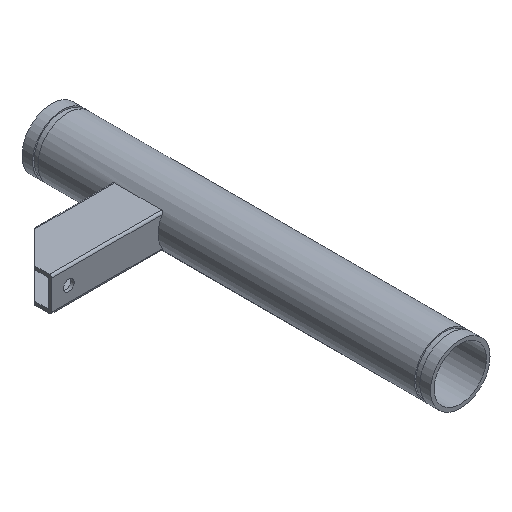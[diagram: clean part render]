
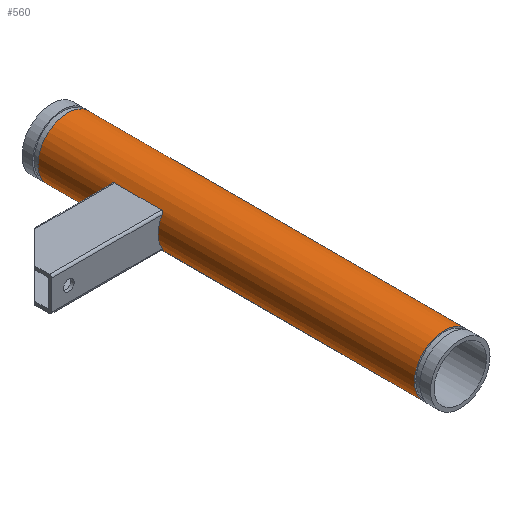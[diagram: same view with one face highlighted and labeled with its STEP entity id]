
A CAD part, isometric view. The second image highlights one B-rep face of the part: STEP entity #560.
In plain terms, the highlighted cylindrical face has radius 44.45 mm (diameter 88.9 mm), a full revolution.
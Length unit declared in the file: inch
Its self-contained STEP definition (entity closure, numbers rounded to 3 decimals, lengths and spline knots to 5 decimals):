
#22=CIRCLE('',#603,1.75);
#23=CIRCLE('',#604,1.75);
#32=CIRCLE('',#621,1.75);
#33=CIRCLE('',#622,1.75);
#34=CIRCLE('',#623,1.75);
#35=CIRCLE('',#624,1.75);
#36=CIRCLE('',#625,1.75);
#37=CIRCLE('',#626,1.75);
#83=FACE_OUTER_BOUND('',#111,.T.);
#111=EDGE_LOOP('',(#407,#408,#409,#410,#411,#412,#413,#414,#415,#416,#417,
#418,#419,#420,#421,#422,#423,#424));
#136=B_SPLINE_CURVE_WITH_KNOTS('',3,(#837,#838,#839,#840,#841,#842,#843,
#844,#845,#846),.UNSPECIFIED.,.F.,.F.,(4,2,2,2,4),(0.,0.12408,
0.24817,0.3957,0.54324),.UNSPECIFIED.);
#137=B_SPLINE_CURVE_WITH_KNOTS('',3,(#863,#864,#865,#866,#867,#868,#869,
#870,#871,#872),.UNSPECIFIED.,.F.,.F.,(4,2,2,2,4),(-0.54324,-0.3957,
-0.24817,-0.12408,0.),.UNSPECIFIED.);
#138=B_SPLINE_CURVE_WITH_KNOTS('',3,(#883,#884,#885,#886,#887,#888,#889,
#890,#891,#892),.UNSPECIFIED.,.F.,.F.,(4,2,2,2,4),(0.53044,0.67798,
0.82551,0.9496,1.07368),.UNSPECIFIED.);
#139=B_SPLINE_CURVE_WITH_KNOTS('',3,(#914,#915,#916,#917,#918,#919,#920,
#921,#922,#923),.UNSPECIFIED.,.F.,.F.,(4,2,2,2,4),(1.07368,1.19777,
1.32185,1.46939,1.61692),.UNSPECIFIED.);
#142=LINE('',#850,#180);
#160=LINE('',#927,#198);
#167=LINE('',#959,#205);
#168=LINE('',#962,#206);
#180=VECTOR('',#671,0.3937);
#198=VECTOR('',#711,0.3937);
#205=VECTOR('',#742,1.75);
#206=VECTOR('',#745,1.75);
#220=VERTEX_POINT('',#834);
#221=VERTEX_POINT('',#836);
#222=VERTEX_POINT('',#849);
#227=VERTEX_POINT('',#860);
#228=VERTEX_POINT('',#862);
#229=VERTEX_POINT('',#876);
#231=VERTEX_POINT('',#882);
#239=VERTEX_POINT('',#911);
#240=VERTEX_POINT('',#913);
#251=VERTEX_POINT('',#954);
#252=VERTEX_POINT('',#955);
#253=VERTEX_POINT('',#958);
#254=VERTEX_POINT('',#961);
#255=VERTEX_POINT('',#963);
#276=EDGE_CURVE('',#220,#221,#136,.F.);
#278=EDGE_CURVE('',#222,#221,#142,.T.);
#284=EDGE_CURVE('',#227,#228,#137,.F.);
#287=EDGE_CURVE('',#229,#228,#22,.T.);
#288=EDGE_CURVE('',#220,#229,#23,.T.);
#290=EDGE_CURVE('',#222,#231,#138,.F.);
#301=EDGE_CURVE('',#239,#240,#139,.F.);
#304=EDGE_CURVE('',#227,#240,#160,.T.);
#317=EDGE_CURVE('',#251,#252,#32,.T.);
#318=EDGE_CURVE('',#252,#251,#33,.T.);
#319=EDGE_CURVE('',#252,#253,#167,.T.);
#320=EDGE_CURVE('',#253,#231,#34,.T.);
#321=EDGE_CURVE('',#229,#254,#168,.T.);
#322=EDGE_CURVE('',#254,#255,#35,.T.);
#323=EDGE_CURVE('',#255,#254,#36,.T.);
#324=EDGE_CURVE('',#239,#253,#37,.T.);
#407=ORIENTED_EDGE('',*,*,#317,.F.);
#408=ORIENTED_EDGE('',*,*,#318,.F.);
#409=ORIENTED_EDGE('',*,*,#319,.T.);
#410=ORIENTED_EDGE('',*,*,#320,.T.);
#411=ORIENTED_EDGE('',*,*,#290,.F.);
#412=ORIENTED_EDGE('',*,*,#278,.T.);
#413=ORIENTED_EDGE('',*,*,#276,.F.);
#414=ORIENTED_EDGE('',*,*,#288,.T.);
#415=ORIENTED_EDGE('',*,*,#321,.T.);
#416=ORIENTED_EDGE('',*,*,#322,.T.);
#417=ORIENTED_EDGE('',*,*,#323,.T.);
#418=ORIENTED_EDGE('',*,*,#321,.F.);
#419=ORIENTED_EDGE('',*,*,#287,.T.);
#420=ORIENTED_EDGE('',*,*,#284,.F.);
#421=ORIENTED_EDGE('',*,*,#304,.T.);
#422=ORIENTED_EDGE('',*,*,#301,.F.);
#423=ORIENTED_EDGE('',*,*,#324,.T.);
#424=ORIENTED_EDGE('',*,*,#319,.F.);
#514=CYLINDRICAL_SURFACE('',#620,1.75);
#560=ADVANCED_FACE('',(#83),#514,.T.);
#603=AXIS2_PLACEMENT_3D('',#877,#684,#685);
#604=AXIS2_PLACEMENT_3D('',#878,#686,#687);
#620=AXIS2_PLACEMENT_3D('',#953,#736,#737);
#621=AXIS2_PLACEMENT_3D('',#956,#738,#739);
#622=AXIS2_PLACEMENT_3D('',#957,#740,#741);
#623=AXIS2_PLACEMENT_3D('',#960,#743,#744);
#624=AXIS2_PLACEMENT_3D('',#964,#746,#747);
#625=AXIS2_PLACEMENT_3D('',#965,#748,#749);
#626=AXIS2_PLACEMENT_3D('',#966,#750,#751);
#671=DIRECTION('',(0.,1.,0.));
#684=DIRECTION('center_axis',(0.,1.,0.));
#685=DIRECTION('ref_axis',(1.,0.,0.));
#686=DIRECTION('center_axis',(0.,1.,0.));
#687=DIRECTION('ref_axis',(1.,0.,0.));
#711=DIRECTION('',(0.,-1.,0.));
#736=DIRECTION('center_axis',(0.,-1.,0.));
#737=DIRECTION('ref_axis',(1.,0.,0.));
#738=DIRECTION('center_axis',(0.,-1.,0.));
#739=DIRECTION('ref_axis',(1.,0.,0.));
#740=DIRECTION('center_axis',(0.,-1.,0.));
#741=DIRECTION('ref_axis',(1.,0.,0.));
#742=DIRECTION('',(0.,1.,0.));
#743=DIRECTION('center_axis',(0.,-1.,0.));
#744=DIRECTION('ref_axis',(1.,0.,0.));
#745=DIRECTION('',(0.,1.,0.));
#746=DIRECTION('center_axis',(0.,-1.,0.));
#747=DIRECTION('ref_axis',(1.,0.,0.));
#748=DIRECTION('center_axis',(0.,-1.,0.));
#749=DIRECTION('ref_axis',(1.,0.,0.));
#750=DIRECTION('center_axis',(0.,-1.,0.));
#751=DIRECTION('ref_axis',(1.,0.,0.));
#834=CARTESIAN_POINT('',(-1.51842,19.,-0.87));
#836=CARTESIAN_POINT('',(-1.43614,18.87,-1.));
#837=CARTESIAN_POINT('Ctrl Pts',(-1.43614,18.87,-1.));
#838=CARTESIAN_POINT('Ctrl Pts',(-1.43614,18.88628,-1.));
#839=CARTESIAN_POINT('Ctrl Pts',(-1.43842,18.90336,-0.99675));
#840=CARTESIAN_POINT('Ctrl Pts',(-1.447,18.93422,-0.98425));
#841=CARTESIAN_POINT('Ctrl Pts',(-1.45326,18.94803,-0.97503));
#842=CARTESIAN_POINT('Ctrl Pts',(-1.46793,18.97174,-0.95283));
#843=CARTESIAN_POINT('Ctrl Pts',(-1.47772,18.98244,-0.93767));
#844=CARTESIAN_POINT('Ctrl Pts',(-1.49815,18.99657,-0.90466));
#845=CARTESIAN_POINT('Ctrl Pts',(-1.50879,19.,-0.8868));
#846=CARTESIAN_POINT('Ctrl Pts',(-1.51842,19.,-0.87));
#849=CARTESIAN_POINT('',(-1.43614,16.13,-1.));
#850=CARTESIAN_POINT('',(-1.43614,12.,-1.));
#860=CARTESIAN_POINT('',(-1.43614,18.87,1.));
#862=CARTESIAN_POINT('',(-1.51842,19.,0.87));
#863=CARTESIAN_POINT('Ctrl Pts',(-1.51842,19.,0.87));
#864=CARTESIAN_POINT('Ctrl Pts',(-1.50879,19.,0.8868));
#865=CARTESIAN_POINT('Ctrl Pts',(-1.49815,18.99657,0.90466));
#866=CARTESIAN_POINT('Ctrl Pts',(-1.47772,18.98244,0.93767));
#867=CARTESIAN_POINT('Ctrl Pts',(-1.46793,18.97174,0.95283));
#868=CARTESIAN_POINT('Ctrl Pts',(-1.45326,18.94803,0.97503));
#869=CARTESIAN_POINT('Ctrl Pts',(-1.447,18.93422,0.98425));
#870=CARTESIAN_POINT('Ctrl Pts',(-1.43842,18.90336,0.99675));
#871=CARTESIAN_POINT('Ctrl Pts',(-1.43614,18.88628,1.));
#872=CARTESIAN_POINT('Ctrl Pts',(-1.43614,18.87,1.));
#876=CARTESIAN_POINT('',(-1.75,19.,0.));
#877=CARTESIAN_POINT('Origin',(0.,19.,0.));
#878=CARTESIAN_POINT('Origin',(0.,19.,0.));
#882=CARTESIAN_POINT('',(-1.51842,16.,-0.87));
#883=CARTESIAN_POINT('Ctrl Pts',(-1.51842,16.,-0.87));
#884=CARTESIAN_POINT('Ctrl Pts',(-1.50879,16.,-0.8868));
#885=CARTESIAN_POINT('Ctrl Pts',(-1.49815,16.00343,-0.90466));
#886=CARTESIAN_POINT('Ctrl Pts',(-1.47772,16.01756,-0.93767));
#887=CARTESIAN_POINT('Ctrl Pts',(-1.46793,16.02826,-0.95283));
#888=CARTESIAN_POINT('Ctrl Pts',(-1.45326,16.05197,-0.97503));
#889=CARTESIAN_POINT('Ctrl Pts',(-1.447,16.06578,-0.98425));
#890=CARTESIAN_POINT('Ctrl Pts',(-1.43842,16.09664,-0.99675));
#891=CARTESIAN_POINT('Ctrl Pts',(-1.43614,16.11372,-1.));
#892=CARTESIAN_POINT('Ctrl Pts',(-1.43614,16.13,-1.));
#911=CARTESIAN_POINT('',(-1.51842,16.,0.87));
#913=CARTESIAN_POINT('',(-1.43614,16.13,1.));
#914=CARTESIAN_POINT('Ctrl Pts',(-1.43614,16.13,1.));
#915=CARTESIAN_POINT('Ctrl Pts',(-1.43614,16.11372,1.));
#916=CARTESIAN_POINT('Ctrl Pts',(-1.43842,16.09664,0.99675));
#917=CARTESIAN_POINT('Ctrl Pts',(-1.447,16.06578,0.98425));
#918=CARTESIAN_POINT('Ctrl Pts',(-1.45326,16.05197,0.97503));
#919=CARTESIAN_POINT('Ctrl Pts',(-1.46793,16.02826,0.95283));
#920=CARTESIAN_POINT('Ctrl Pts',(-1.47772,16.01756,0.93767));
#921=CARTESIAN_POINT('Ctrl Pts',(-1.49815,16.00343,0.90466));
#922=CARTESIAN_POINT('Ctrl Pts',(-1.50879,16.,0.8868));
#923=CARTESIAN_POINT('Ctrl Pts',(-1.51842,16.,0.87));
#927=CARTESIAN_POINT('',(-1.43614,12.,1.));
#953=CARTESIAN_POINT('Origin',(0.,12.,0.));
#954=CARTESIAN_POINT('',(1.75,0.938,0.));
#955=CARTESIAN_POINT('',(-1.75,0.938,0.));
#956=CARTESIAN_POINT('Origin',(0.,0.938,0.));
#957=CARTESIAN_POINT('Origin',(0.,0.938,0.));
#958=CARTESIAN_POINT('',(-1.75,16.,0.));
#959=CARTESIAN_POINT('',(-1.75,12.,0.));
#960=CARTESIAN_POINT('Origin',(0.,16.,0.));
#961=CARTESIAN_POINT('',(-1.75,23.062,0.));
#962=CARTESIAN_POINT('',(-1.75,12.,0.));
#963=CARTESIAN_POINT('',(1.75,23.062,0.));
#964=CARTESIAN_POINT('Origin',(0.,23.062,0.));
#965=CARTESIAN_POINT('Origin',(0.,23.062,0.));
#966=CARTESIAN_POINT('Origin',(0.,16.,0.));
